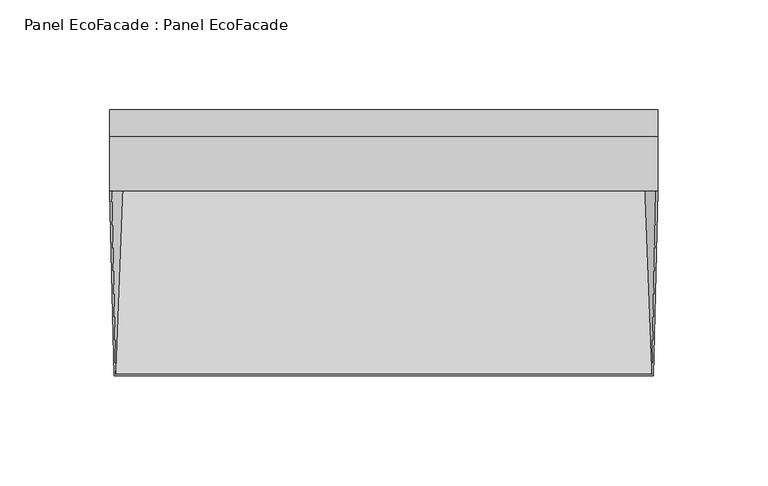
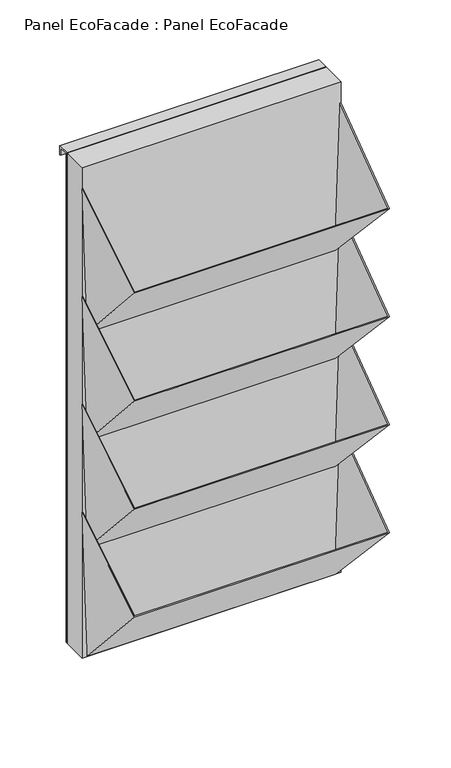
"""IFC4 building model written with IfcOpenShell, lengths in millimetres: plate geometry, Panel EcoFacade : Panel EcoFacade."""

import ifcopenshell
import ifcopenshell.guid

model = None  # the IFC model being written
_history = None  # IfcOwnerHistory: only IFC2X3 demands one
_inside = {}  # id of a spatial element -> (the spatial element, [elements in it])
_under = {}  # id of a project, library or spatial element -> (it, [spatial elements below it])
_declared = {}  # id of a project -> (the project, [libraries it declares])
_typed = {}  # id of a type object -> (the type object, [elements of that type])
_made_of = {}  # id of a material, layer set ... -> (it, [elements and type objects made of it])


def new_model(schema):
    """Start an empty IFC model of exactly this schema.

    Asked for "IFC4X3", IfcOpenShell would pick the latest addendum, in which some entities
    have other attributes; the version numbers below select the first issue.
    IFC2X3 requires an IfcOwnerHistory on every rooted entity: one is made here for all.
    """
    global model, _history
    if schema == "IFC4X3":
        model = ifcopenshell.file(schema_version=(4, 3, 0, 0))
    else:
        model = ifcopenshell.file(schema=schema)
    _inside.clear()
    _under.clear()
    _declared.clear()
    _typed.clear()
    _made_of.clear()
    _history = None
    if model.schema == "IFC2X3":
        org = make("IfcOrganization", Name="unknown")
        user = make(
            "IfcPersonAndOrganization",
            ThePerson=make("IfcPerson", FamilyName="unknown"),
            TheOrganization=org,
        )
        app = make(
            "IfcApplication",
            ApplicationDeveloper=org,
            Version="unknown",
            ApplicationFullName="unknown",
            ApplicationIdentifier="unknown",
        )
        _history = make(
            "IfcOwnerHistory",
            OwningUser=user,
            OwningApplication=app,
            ChangeAction="ADDED",
            CreationDate=0,
        )
    return model


def make(cls, **values):
    """One entity of the class cls with the attributes given. An attribute that is None is left unset."""
    return model.create_entity(
        cls, **{name: value for name, value in values.items() if value is not None}
    )


def rooted(cls, **values):
    """An entity with a GlobalId (a new one), such as an element, a storey or a relation."""
    return make(cls, GlobalId=ifcopenshell.guid.new(), OwnerHistory=_history, **values)


def si_unit(unit_type, name, prefix=None):
    """IfcSIUnit, for example si_unit("LENGTHUNIT", "METRE", prefix="MILLI")."""
    return make("IfcSIUnit", UnitType=unit_type, Prefix=prefix, Name=name)


def assignment(units):
    """IfcUnitAssignment: the units of a project."""
    return None if units is None else make("IfcUnitAssignment", Units=units)


def point(xyz):
    """IfcCartesianPoint."""
    return None if xyz is None else make("IfcCartesianPoint", Coordinates=xyz)


def direction(xyz):
    """IfcDirection."""
    return None if xyz is None else make("IfcDirection", DirectionRatios=xyz)


def frame(location, z_axis=None, x_axis=None):
    """IfcAxis2Placement3D, a coordinate frame: its origin and axes. An axis left out is left unset."""
    return make(
        "IfcAxis2Placement3D",
        Location=point(location),
        Axis=direction(z_axis),
        RefDirection=direction(x_axis),
    )


def origin():
    """The frame at (0, 0, 0) with its axes left unset."""
    return frame((0.0, 0.0, 0.0))


def origin_with_axes():
    """The frame at (0, 0, 0) with the z axis (0, 0, 1) and the x axis (1, 0, 0) written out."""
    return frame((0.0, 0.0, 0.0), z_axis=(0.0, 0.0, 1.0), x_axis=(1.0, 0.0, 0.0))


def place(relative_to, where):
    """IfcLocalPlacement: puts the frame where relative to a parent placement (None: the world)."""
    return make(
        "IfcLocalPlacement", PlacementRelTo=relative_to, RelativePlacement=where
    )


def context(
    kind, dimensions, precision=None, world=None, true_north=None, identifier=None
):
    """IfcGeometricRepresentationContext, for example the 3D "Model" context."""
    return make(
        "IfcGeometricRepresentationContext",
        ContextIdentifier=identifier,
        ContextType=kind,
        CoordinateSpaceDimension=dimensions,
        Precision=precision,
        WorldCoordinateSystem=world,
        TrueNorth=true_north,
    )


def project(units=None, contexts=None):
    """IfcProject with its units and contexts."""
    return rooted(
        "IfcProject",
        Name="project",
        RepresentationContexts=contexts,
        UnitsInContext=assignment(units),
    )


def spatial(cls, under=None, at=None, **own):
    """A site, building, storey or space (cls), placed at a placement, below another one or the project."""
    s = rooted(cls, ObjectPlacement=at, **own)
    if under is not None:
        _under.setdefault(under.id(), (under, []))[1].append(s)
    return s


def polyline(points):
    """IfcPolyline through the points."""
    return make("IfcPolyline", Points=[point(p) for p in points])


def outline(outer, holes=None, kind="AREA"):
    """IfcArbitraryClosedProfileDef: a profile drawn as a closed curve; with holes, ...WithVoids."""
    if holes is None:
        return make("IfcArbitraryClosedProfileDef", ProfileType=kind, OuterCurve=outer)
    return make(
        "IfcArbitraryProfileDefWithVoids",
        ProfileType=kind,
        OuterCurve=outer,
        InnerCurves=holes,
    )


def extrude(swept, where, along, depth):
    """IfcExtrudedAreaSolid: the profile swept, set in the frame where, extruded along a direction by depth."""
    return make(
        "IfcExtrudedAreaSolid",
        SweptArea=swept,
        Position=where,
        ExtrudedDirection=direction(along),
        Depth=depth,
    )


def faces_of(points, faces, orient=None, outer=None):
    """IfcFace entities. A face is a list of loops; a loop is a list of indices into points, from 0.

    orient and outer hold one flag for each loop. By default every Orientation is true, the
    first loop of a face is its IfcFaceOuterBound and the others are IfcFaceBound.
    """
    made = []
    for i, loops in enumerate(faces):
        bounds = []
        for j, loop in enumerate(loops):
            is_outer = j == 0 if outer is None else outer[i][j]
            bounds.append(
                make(
                    "IfcFaceOuterBound" if is_outer else "IfcFaceBound",
                    Bound=make("IfcPolyLoop", Polygon=[points[k] for k in loop]),
                    Orientation=True if orient is None else orient[i][j],
                )
            )
        made.append(make("IfcFace", Bounds=bounds))
    return made


def faceted_brep(points, faces, orient=None, outer=None, voids=None):
    """IfcFacetedBrep: a solid bounded by flat faces; with voids (closed shells), ...WithVoids."""
    shared = [point(p) for p in points]
    hull = make("IfcClosedShell", CfsFaces=faces_of(shared, faces, orient, outer))
    if voids is None:
        return make("IfcFacetedBrep", Outer=hull)
    return make(
        "IfcFacetedBrepWithVoids",
        Outer=hull,
        Voids=[
            make(cls, CfsFaces=faces_of(shared, fs, o, b)) for cls, fs, o, b in voids
        ],
    )


def shape(context_of_items, identifier, shape_type, items):
    """IfcShapeRepresentation: the items that make up one representation, for example the "Body"."""
    return make(
        "IfcShapeRepresentation",
        ContextOfItems=context_of_items,
        RepresentationIdentifier=identifier,
        RepresentationType=shape_type,
        Items=items,
    )


def source(mapping_origin, context_of_items, identifier, shape_type, items):
    """IfcRepresentationMap: a shape defined once, which mapped items show again and again."""
    return make(
        "IfcRepresentationMap",
        MappingOrigin=mapping_origin,
        MappedRepresentation=shape(context_of_items, identifier, shape_type, items),
    )


def transform(
    local_origin,
    x_axis=None,
    y_axis=None,
    z_axis=None,
    scale=None,
    scale2=None,
    scale3=None,
    uniform=True,
):
    """IfcCartesianTransformationOperator3D, or its non-uniform kind. x_axis, y_axis, z_axis: its Axis1, 2, 3."""
    if uniform:
        return make(
            "IfcCartesianTransformationOperator3D",
            Axis1=direction(x_axis),
            Axis2=direction(y_axis),
            LocalOrigin=point(local_origin),
            Scale=scale,
            Axis3=direction(z_axis),
        )
    return make(
        "IfcCartesianTransformationOperator3DnonUniform",
        Axis1=direction(x_axis),
        Axis2=direction(y_axis),
        LocalOrigin=point(local_origin),
        Scale=scale,
        Axis3=direction(z_axis),
        Scale2=scale2,
        Scale3=scale3,
    )


def mapped(mapping_source, mapping_target):
    """IfcMappedItem: shows the shape of a source again, moved by a transform."""
    return make(
        "IfcMappedItem", MappingSource=mapping_source, MappingTarget=mapping_target
    )


def made_of(thing, what):
    """Note that an element or type object is made of a material, layer set ...; save() writes the relation."""
    if what is not None:
        _made_of.setdefault(what.id(), (what, []))[1].append(thing)
    return thing


def element(
    cls,
    number,
    at=None,
    inside=None,
    cuts=None,
    type_object=None,
    material=None,
    context=None,
    identifier="Body",
    shape_type=None,
    held_by="IfcProductDefinitionShape",
    body=None,
    shapes=None,
    **own,
):
    """One element of the class cls, such as IfcWall. Its Tag is "e" and its number.

    at: its placement. inside: the storey or other place that contains it. cuts: it is an
    opening in that element (IfcRelVoidsElement). A single representation is given by context,
    identifier, shape_type and body (its items); several are given by shapes. held_by: the class
    of the entity that holds the representations. save() writes the other relations.
    """
    e = rooted(cls, Tag="e%d" % number, ObjectPlacement=at, **own)
    if body is not None:
        shapes = [shape(context, identifier, shape_type, body)]
    if shapes is not None:
        e.Representation = make(held_by, Representations=shapes)
    if inside is not None:
        _inside.setdefault(inside.id(), (inside, []))[1].append(e)
    if cuts is not None:
        rooted(
            "IfcRelVoidsElement", RelatingBuildingElement=cuts, RelatedOpeningElement=e
        )
    if type_object is not None:
        _typed.setdefault(type_object.id(), (type_object, []))[1].append(e)
    return made_of(e, material)


def aggregate(whole, parts):
    """IfcRelAggregates: a whole, such as a stair, and the parts it consists of."""
    return rooted("IfcRelAggregates", RelatingObject=whole, RelatedObjects=parts)


def save(model, path):
    """Write the relations noted so far, then the file.

    IfcRelAggregates (storeys below a building ...), IfcRelContainedInSpatialStructure (elements
    in a storey), IfcRelDefinesByType, IfcRelAssociatesMaterial and IfcRelDeclares: one each for
    every whole, place, type object, material and project.
    """
    for whole, parts in _under.values():
        aggregate(whole, parts)
    for where, things in _inside.values():
        rooted(
            "IfcRelContainedInSpatialStructure",
            RelatedElements=things,
            RelatingStructure=where,
        )
    for kind, things in _typed.values():
        rooted("IfcRelDefinesByType", RelatedObjects=things, RelatingType=kind)
    for what, things in _made_of.values():
        rooted("IfcRelAssociatesMaterial", RelatedObjects=things, RelatingMaterial=what)
    for by, libraries in _declared.values():
        rooted("IfcRelDeclares", RelatingContext=by, RelatedDefinitions=libraries)
    model.write(path)


def panel_ecofacade_panel_ecofacade_bfa1dbbb(model_context):
    return source(origin(), model_context, "Body", "SolidModel", [
        faceted_brep([(-124.180785, 0.0, 478.5882353), (-119.0333837, 0.0, 331.185948), (119.0333837, 0.0, 331.185948), (124.180785, 0.0, 478.5882353), (124.9812727, 0.0, 478.5882353), (119.7924572, 0.0, 330.0), (-119.7924572, 0.0, 330.0), (-124.9812727, 0.0, 478.5882353), (-123.0102218, -84.2, 422.1447224), (-122.225466, -83.5279628, 422.5952229), (123.0102218, -84.2, 422.1447224), (122.225466, -83.5279628, 422.5952229)], [[[0, 1, 2, 3, 4, 5, 6, 7]], [[6, 8, 7]], [[1, 0, 9]], [[0, 7, 8, 10, 4, 3, 11, 9]], [[5, 10, 8, 6]], [[1, 9, 11, 2]], [[4, 10, 5]], [[3, 2, 11]]]),
        faceted_brep([(-124.180785, 0.0, 368.5882353), (-119.0333837, 0.0, 221.185948), (119.0333837, 0.0, 221.185948), (124.180785, 0.0, 368.5882353), (124.9812727, 0.0, 368.5882353), (119.7924572, 0.0, 220.0), (-119.7924572, 0.0, 220.0), (-124.9812727, 0.0, 368.5882353), (-123.0102218, -84.2, 312.1447224), (-122.225466, -83.5279628, 312.5952229), (123.0102218, -84.2, 312.1447224), (122.225466, -83.5279628, 312.5952229)], [[[0, 1, 2, 3, 4, 5, 6, 7]], [[6, 8, 7]], [[1, 0, 9]], [[0, 7, 8, 10, 4, 3, 11, 9]], [[5, 10, 8, 6]], [[1, 9, 11, 2]], [[4, 10, 5]], [[3, 2, 11]]]),
        faceted_brep([(-124.180785, 0.0, 258.5882353), (-119.0333837, 0.0, 111.185948), (119.0333837, 0.0, 111.185948), (124.180785, 0.0, 258.5882353), (124.9812727, 0.0, 258.5882353), (119.7924572, 0.0, 110.0), (-119.7924572, 0.0, 110.0), (-124.9812727, 0.0, 258.5882353), (-123.0102218, -84.2, 202.1447224), (-122.225466, -83.5279628, 202.5952229), (123.0102218, -84.2, 202.1447224), (122.225466, -83.5279628, 202.5952229)], [[[0, 1, 2, 3, 4, 5, 6, 7]], [[6, 8, 7]], [[1, 0, 9]], [[0, 7, 8, 10, 4, 3, 11, 9]], [[5, 10, 8, 6]], [[1, 9, 11, 2]], [[4, 10, 5]], [[3, 2, 11]]]),
        faceted_brep([(-124.180785, 0.0, 148.5882353), (-119.0333837, 0.0, 1.185948), (119.0333837, 0.0, 1.185948), (124.180785, 0.0, 148.5882353), (124.9812727, 0.0, 148.5882353), (119.7924572, 0.0, 0.0), (-119.7924572, 0.0, 0.0), (-124.9812727, 0.0, 148.5882353), (-123.0102218, -84.2, 92.1447224), (-122.225466, -83.5279628, 92.5952229), (123.0102218, -84.2, 92.1447224), (122.225466, -83.5279628, 92.5952229)], [[[0, 1, 2, 3, 4, 5, 6, 7]], [[6, 8, 7]], [[1, 0, 9]], [[0, 7, 8, 10, 4, 3, 11, 9]], [[5, 10, 8, 6]], [[1, 9, 11, 2]], [[4, 10, 5]], [[3, 2, 11]]]),
        extrude(outline(polyline([(26.5, 0.0), (25.0, 0.0), (25.0, 500.0), (37.0, 500.0), (37.0, 491.0), (35.5, 491.0), (35.5, 498.5), (26.5, 498.5), (26.5, 0.0)])), frame((-125.0000001, 0.0, 0.0), z_axis=(1.0, 0.0, 0.0), x_axis=(0.0, 1.0, 0.0)), (0.0, 0.0, 1.0), 250.0),
        extrude(outline(polyline([(125.0, 25.0), (125.0, 0.0), (-125.0, 0.0), (-125.0, 25.0), (125.0, 25.0)])), origin_with_axes(), (0.0, 0.0, 1.0), 500.0),
    ])


if __name__ == "__main__":
    model = new_model("IFC4")
    model_context = context("Model", 3, world=origin())
    ifc_project = project(units=[si_unit("LENGTHUNIT", "METRE", prefix="MILLI")], contexts=[model_context])
    site = spatial("IfcSite", under=ifc_project)
    building = spatial("IfcBuilding", under=site)
    placement = place(None, origin())
    panel_ecofacade_panel_ecofacade_shape = panel_ecofacade_panel_ecofacade_bfa1dbbb(model_context)
    element("IfcPlate", 1, ObjectType="Panel EcoFacade : Panel EcoFacade", at=placement, inside=building, context=model_context, shape_type="MappedRepresentation", body=[
        mapped(panel_ecofacade_panel_ecofacade_shape, transform((0.0, 0.0, 0.0), x_axis=(1.0, 0.0, 0.0), y_axis=(0.0, 1.0, 0.0), z_axis=(0.0, 0.0, 1.0))),
    ])
    save(model, "model.ifc")
